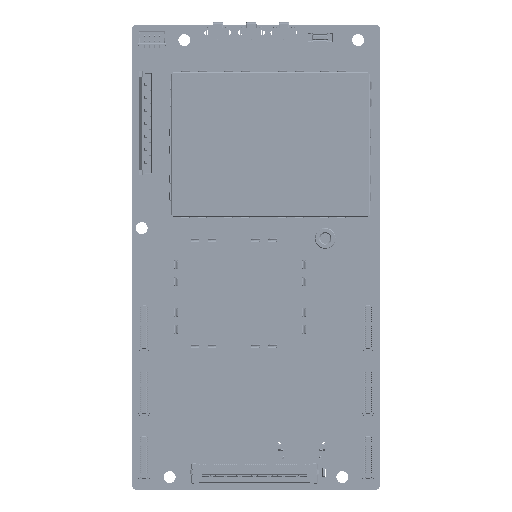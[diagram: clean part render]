
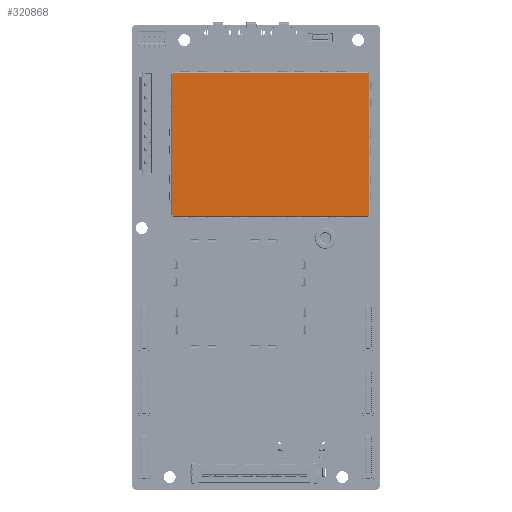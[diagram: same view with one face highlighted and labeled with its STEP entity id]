
A CAD part, front view. The second image highlights one B-rep face of the part: STEP entity #320868.
In plain terms, the highlighted planar face has unit normal (0, -1, 0) as drawn and (0, 1, 0) by its records, which use the part's own axes.
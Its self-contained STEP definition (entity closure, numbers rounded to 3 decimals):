
#320405=CARTESIAN_POINT('',(13.775,0.,-19.03));
#320406=DIRECTION('',(0.,1.,0.));
#320407=DIRECTION('',(-1.,0.,0.));
#320408=AXIS2_PLACEMENT_3D('',#320405,#320406,#320407);
#320410=CARTESIAN_POINT('',(13.775,0.,19.03));
#320411=DIRECTION('',(0.,1.,0.));
#320412=DIRECTION('',(0.,0.,-1.));
#320413=AXIS2_PLACEMENT_3D('',#320410,#320411,#320412);
#320415=CARTESIAN_POINT('',(-13.775,0.,19.03));
#320416=DIRECTION('',(0.,1.,0.));
#320417=DIRECTION('',(1.,0.,0.));
#320418=AXIS2_PLACEMENT_3D('',#320415,#320416,#320417);
#320420=CARTESIAN_POINT('',(-13.775,0.,-19.03));
#320421=DIRECTION('',(0.,1.,0.));
#320422=DIRECTION('',(0.,0.,1.));
#320423=AXIS2_PLACEMENT_3D('',#320420,#320421,#320422);
#320429=DIRECTION('',(-1.,0.,0.));
#320430=VECTOR('',#320429,27.35);
#320431=CARTESIAN_POINT('',(13.675,0.,-19.03));
#320432=LINE('',#320431,#320430);
#320603=DIRECTION('',(0.,0.,-1.));
#320604=VECTOR('',#320603,37.86);
#320605=CARTESIAN_POINT('',(13.775,0.,18.93));
#320606=LINE('',#320605,#320604);
#320679=DIRECTION('',(1.,0.,0.));
#320680=VECTOR('',#320679,27.35);
#320681=CARTESIAN_POINT('',(-13.675,0.,19.03));
#320682=LINE('',#320681,#320680);
#320729=DIRECTION('',(0.,0.,1.));
#320730=VECTOR('',#320729,37.86);
#320731=CARTESIAN_POINT('',(-13.775,0.,-18.93));
#320732=LINE('',#320731,#320730);
#320749=CARTESIAN_POINT('',(13.675,0.,-19.03));
#320750=CARTESIAN_POINT('',(-13.675,0.,-19.03));
#320751=VERTEX_POINT('',#320749);
#320752=VERTEX_POINT('',#320750);
#320753=CARTESIAN_POINT('',(13.775,0.,-18.93));
#320754=VERTEX_POINT('',#320753);
#320755=CARTESIAN_POINT('',(13.775,0.,18.93));
#320756=VERTEX_POINT('',#320755);
#320757=CARTESIAN_POINT('',(13.675,0.,19.03));
#320758=VERTEX_POINT('',#320757);
#320759=CARTESIAN_POINT('',(-13.675,0.,19.03));
#320760=VERTEX_POINT('',#320759);
#320761=CARTESIAN_POINT('',(-13.775,0.,18.93));
#320762=VERTEX_POINT('',#320761);
#320763=CARTESIAN_POINT('',(-13.775,0.,-18.93));
#320764=VERTEX_POINT('',#320763);
#320845=CARTESIAN_POINT('',(0.,0.,0.));
#320846=DIRECTION('',(0.,1.,0.));
#320847=DIRECTION('',(1.,0.,0.));
#320848=AXIS2_PLACEMENT_3D('',#320845,#320846,#320847);
#320849=PLANE('',#320848);
#320851=ORIENTED_EDGE('',*,*,#320850,.F.);
#320853=ORIENTED_EDGE('',*,*,#320852,.T.);
#320855=ORIENTED_EDGE('',*,*,#320854,.F.);
#320857=ORIENTED_EDGE('',*,*,#320856,.T.);
#320859=ORIENTED_EDGE('',*,*,#320858,.F.);
#320861=ORIENTED_EDGE('',*,*,#320860,.T.);
#320863=ORIENTED_EDGE('',*,*,#320862,.F.);
#320865=ORIENTED_EDGE('',*,*,#320864,.T.);
#320866=EDGE_LOOP('',(#320851,#320853,#320855,#320857,#320859,#320861,#320863,
#320865));
#320867=FACE_OUTER_BOUND('',#320866,.F.);
#320868=ADVANCED_FACE('',(#320867),#320849,.T.);
#320409=CIRCLE('',#320408,0.1);
#320414=CIRCLE('',#320413,0.1);
#320419=CIRCLE('',#320418,0.1);
#320424=CIRCLE('',#320423,0.1);
#320850=EDGE_CURVE('',#320751,#320752,#320432,.T.);
#320852=EDGE_CURVE('',#320751,#320754,#320409,.T.);
#320854=EDGE_CURVE('',#320756,#320754,#320606,.T.);
#320856=EDGE_CURVE('',#320756,#320758,#320414,.T.);
#320858=EDGE_CURVE('',#320760,#320758,#320682,.T.);
#320860=EDGE_CURVE('',#320760,#320762,#320419,.T.);
#320862=EDGE_CURVE('',#320764,#320762,#320732,.T.);
#320864=EDGE_CURVE('',#320764,#320752,#320424,.T.);
